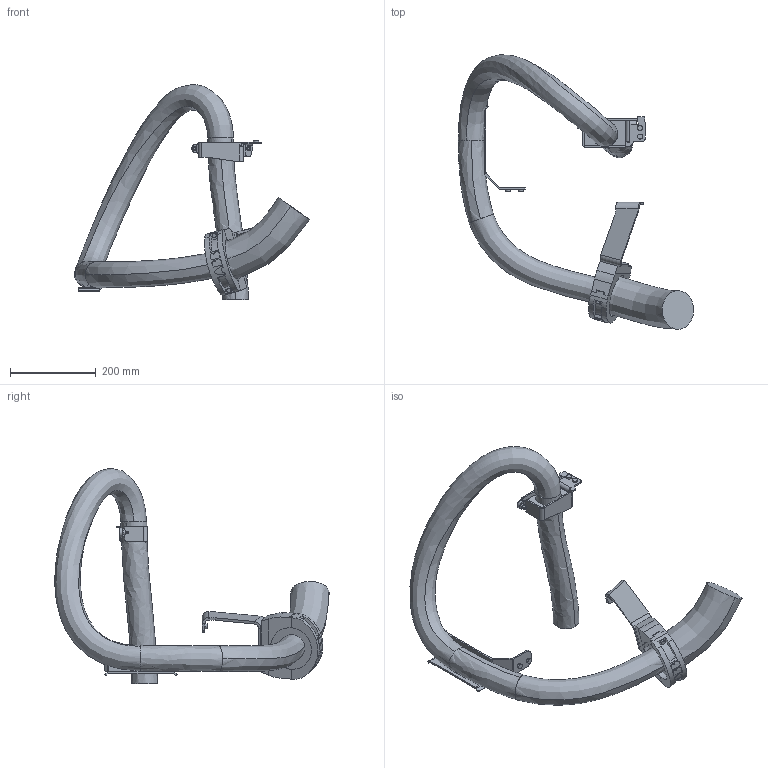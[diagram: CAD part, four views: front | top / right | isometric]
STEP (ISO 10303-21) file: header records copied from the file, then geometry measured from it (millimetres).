
FILE_DESCRIPTION (( 'STEP AP214' ), '1' );
FILE_NAME ('IRB5720-LID-SW_155kg-260_OC_01_LINK01_CABLE.step', '2025-07-08T11:04:03', ( '' ), ( '' ), 'SwSTEP 2.0', 'SolidWorks 2024', '' );
FILE_SCHEMA (( 'AUTOMOTIVE_DESIGN' ));
Length unit declared in the file: millimetre
Products named in the file (1): IRB5720-LID-SW_155kg-260_OC_01_LINK01_CABLE
Bounding box: 548.65 x 639.78 x 501.81 mm (x, y, z)
Volume: 6864491.2 mm3; surface area: 552279.6 mm2
Topology: 1 solids, 1 shells, 340 faces, 878 edges, 549 vertices
Faces by surface type: plane 200, cylinder 111, bspline 21, sphere 4, cone 4
Entity records: 19691 total; most frequent: CARTESIAN_POINT 7716, ORIENTED_EDGE 1756, DIRECTION 1681, EDGE_CURVE 878, AXIS2_PLACEMENT_3D 588, VERTEX_POINT 549, VECTOR 505, LINE 505
